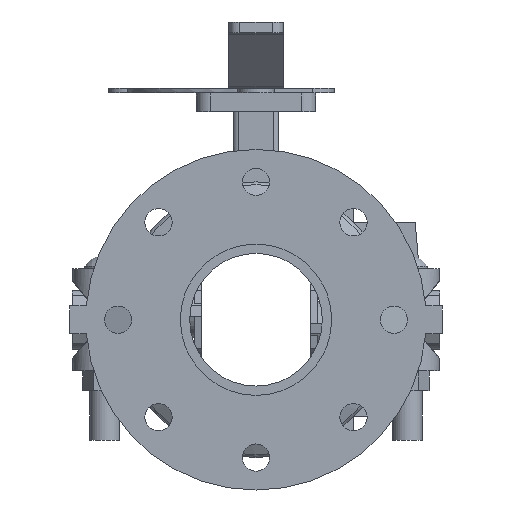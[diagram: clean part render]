
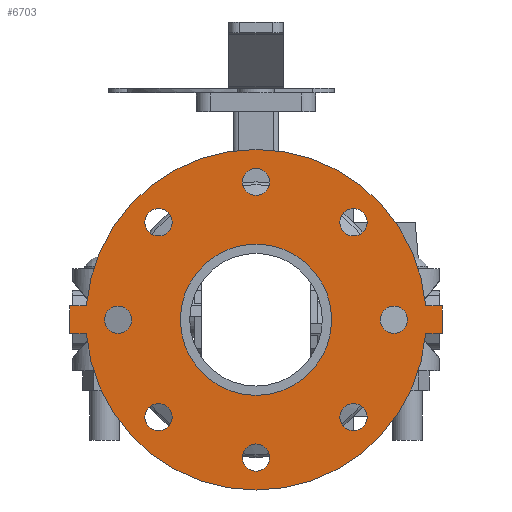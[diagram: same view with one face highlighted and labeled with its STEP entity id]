
A CAD part, front view. The second image highlights one B-rep face of the part: STEP entity #6703.
In plain terms, the highlighted planar face has unit normal (0, -1, 0) as drawn and (0, 0, -1) by its records, which use the part's own axes.
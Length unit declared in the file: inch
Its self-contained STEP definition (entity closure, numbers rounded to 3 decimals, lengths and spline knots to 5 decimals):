
#159=FACE_BOUND('',#829,.T.);
#160=FACE_BOUND('',#830,.T.);
#161=FACE_BOUND('',#831,.T.);
#162=FACE_BOUND('',#832,.T.);
#163=FACE_BOUND('',#833,.T.);
#164=FACE_BOUND('',#834,.T.);
#165=FACE_BOUND('',#835,.T.);
#166=FACE_BOUND('',#836,.T.);
#167=FACE_BOUND('',#837,.T.);
#243=PLANE('',#7266);
#459=FACE_OUTER_BOUND('',#828,.T.);
#828=EDGE_LOOP('',(#4351,#4352,#4353,#4354,#4355,#4356,#4357,#4358));
#829=EDGE_LOOP('',(#4359));
#830=EDGE_LOOP('',(#4360));
#831=EDGE_LOOP('',(#4361));
#832=EDGE_LOOP('',(#4362));
#833=EDGE_LOOP('',(#4363));
#834=EDGE_LOOP('',(#4364));
#835=EDGE_LOOP('',(#4365));
#836=EDGE_LOOP('',(#4366));
#837=EDGE_LOOP('',(#4367));
#1260=LINE('',#10175,#1774);
#1263=LINE('',#10181,#1777);
#1266=LINE('',#10186,#1780);
#1268=LINE('',#10191,#1782);
#1272=LINE('',#10198,#1786);
#1274=LINE('',#10201,#1788);
#1774=VECTOR('',#8096,0.3937);
#1777=VECTOR('',#8101,0.3937);
#1780=VECTOR('',#8106,0.3937);
#1782=VECTOR('',#8110,0.3937);
#1786=VECTOR('',#8116,0.3937);
#1788=VECTOR('',#8120,0.3937);
#2276=CIRCLE('',#7228,0.315);
#2278=CIRCLE('',#7231,0.315);
#2280=CIRCLE('',#7234,0.315);
#2282=CIRCLE('',#7237,0.315);
#2284=CIRCLE('',#7240,0.315);
#2286=CIRCLE('',#7243,0.315);
#2288=CIRCLE('',#7246,0.315);
#2290=CIRCLE('',#7249,0.315);
#2291=CIRCLE('',#7251,1.75);
#2293=CIRCLE('',#7254,3.94);
#2296=CIRCLE('',#7258,3.94);
#2665=VERTEX_POINT('',#10104);
#2667=VERTEX_POINT('',#10110);
#2669=VERTEX_POINT('',#10116);
#2671=VERTEX_POINT('',#10122);
#2673=VERTEX_POINT('',#10128);
#2675=VERTEX_POINT('',#10134);
#2677=VERTEX_POINT('',#10140);
#2679=VERTEX_POINT('',#10146);
#2680=VERTEX_POINT('',#10150);
#2682=VERTEX_POINT('',#10156);
#2684=VERTEX_POINT('',#10159);
#2686=VERTEX_POINT('',#10165);
#2689=VERTEX_POINT('',#10170);
#2690=VERTEX_POINT('',#10174);
#2692=VERTEX_POINT('',#10180);
#2694=VERTEX_POINT('',#10189);
#2695=VERTEX_POINT('',#10190);
#3309=EDGE_CURVE('',#2665,#2665,#2276,.T.);
#3312=EDGE_CURVE('',#2667,#2667,#2278,.T.);
#3315=EDGE_CURVE('',#2669,#2669,#2280,.T.);
#3318=EDGE_CURVE('',#2671,#2671,#2282,.T.);
#3321=EDGE_CURVE('',#2673,#2673,#2284,.T.);
#3324=EDGE_CURVE('',#2675,#2675,#2286,.T.);
#3327=EDGE_CURVE('',#2677,#2677,#2288,.T.);
#3330=EDGE_CURVE('',#2679,#2679,#2290,.T.);
#3331=EDGE_CURVE('',#2680,#2680,#2291,.T.);
#3335=EDGE_CURVE('',#2682,#2684,#2293,.T.);
#3341=EDGE_CURVE('',#2689,#2686,#2296,.T.);
#3342=EDGE_CURVE('',#2684,#2690,#1260,.T.);
#3345=EDGE_CURVE('',#2692,#2689,#1263,.T.);
#3348=EDGE_CURVE('',#2690,#2692,#1266,.T.);
#3350=EDGE_CURVE('',#2694,#2695,#1268,.T.);
#3354=EDGE_CURVE('',#2686,#2694,#1272,.T.);
#3356=EDGE_CURVE('',#2695,#2682,#1274,.T.);
#4351=ORIENTED_EDGE('',*,*,#3356,.F.);
#4352=ORIENTED_EDGE('',*,*,#3350,.F.);
#4353=ORIENTED_EDGE('',*,*,#3354,.F.);
#4354=ORIENTED_EDGE('',*,*,#3341,.F.);
#4355=ORIENTED_EDGE('',*,*,#3345,.F.);
#4356=ORIENTED_EDGE('',*,*,#3348,.F.);
#4357=ORIENTED_EDGE('',*,*,#3342,.F.);
#4358=ORIENTED_EDGE('',*,*,#3335,.F.);
#4359=ORIENTED_EDGE('',*,*,#3309,.T.);
#4360=ORIENTED_EDGE('',*,*,#3312,.T.);
#4361=ORIENTED_EDGE('',*,*,#3315,.T.);
#4362=ORIENTED_EDGE('',*,*,#3318,.T.);
#4363=ORIENTED_EDGE('',*,*,#3321,.T.);
#4364=ORIENTED_EDGE('',*,*,#3324,.T.);
#4365=ORIENTED_EDGE('',*,*,#3327,.T.);
#4366=ORIENTED_EDGE('',*,*,#3330,.T.);
#4367=ORIENTED_EDGE('',*,*,#3331,.T.);
#6703=ADVANCED_FACE('',(#459,#159,#160,#161,#162,#163,#164,#165,#166,#167),
#243,.F.);
#7228=AXIS2_PLACEMENT_3D('',#10106,#8020,#8021);
#7231=AXIS2_PLACEMENT_3D('',#10112,#8027,#8028);
#7234=AXIS2_PLACEMENT_3D('',#10118,#8034,#8035);
#7237=AXIS2_PLACEMENT_3D('',#10124,#8041,#8042);
#7240=AXIS2_PLACEMENT_3D('',#10130,#8048,#8049);
#7243=AXIS2_PLACEMENT_3D('',#10136,#8055,#8056);
#7246=AXIS2_PLACEMENT_3D('',#10142,#8062,#8063);
#7249=AXIS2_PLACEMENT_3D('',#10148,#8069,#8070);
#7251=AXIS2_PLACEMENT_3D('',#10151,#8073,#8074);
#7254=AXIS2_PLACEMENT_3D('',#10160,#8081,#8082);
#7258=AXIS2_PLACEMENT_3D('',#10172,#8092,#8093);
#7266=AXIS2_PLACEMENT_3D('',#10204,#8124,#8125);
#8020=DIRECTION('center_axis',(0.,0.,1.));
#8021=DIRECTION('ref_axis',(-0.707,-0.707,0.));
#8027=DIRECTION('center_axis',(0.,0.,1.));
#8028=DIRECTION('ref_axis',(-1.,0.,0.));
#8034=DIRECTION('center_axis',(0.,0.,1.));
#8035=DIRECTION('ref_axis',(-0.707,0.707,0.));
#8041=DIRECTION('center_axis',(0.,0.,1.));
#8042=DIRECTION('ref_axis',(0.,1.,0.));
#8048=DIRECTION('center_axis',(0.,0.,1.));
#8049=DIRECTION('ref_axis',(0.707,0.707,0.));
#8055=DIRECTION('center_axis',(0.,0.,1.));
#8056=DIRECTION('ref_axis',(1.,0.,0.));
#8062=DIRECTION('center_axis',(0.,0.,1.));
#8063=DIRECTION('ref_axis',(0.707,-0.707,0.));
#8069=DIRECTION('center_axis',(0.,0.,1.));
#8070=DIRECTION('ref_axis',(0.,-1.,0.));
#8073=DIRECTION('center_axis',(0.,0.,1.));
#8074=DIRECTION('ref_axis',(0.,-1.,0.));
#8081=DIRECTION('center_axis',(0.,0.,1.));
#8082=DIRECTION('ref_axis',(0.,1.,0.));
#8092=DIRECTION('center_axis',(0.,0.,1.));
#8093=DIRECTION('ref_axis',(0.,1.,0.));
#8096=DIRECTION('',(0.,-1.,0.));
#8101=DIRECTION('',(0.,1.,0.));
#8106=DIRECTION('',(1.,0.,0.));
#8110=DIRECTION('',(-1.,0.,0.));
#8116=DIRECTION('',(0.,1.,0.));
#8120=DIRECTION('',(0.,-1.,0.));
#8124=DIRECTION('center_axis',(0.,0.,1.));
#8125=DIRECTION('ref_axis',(0.,1.,0.));
#10104=CARTESIAN_POINT('',(-2.03293,2.47841,0.));
#10106=CARTESIAN_POINT('Origin',(-2.25567,2.25567,0.));
#10110=CARTESIAN_POINT('',(0.315,3.19,0.));
#10112=CARTESIAN_POINT('Origin',(0.,3.19,0.));
#10116=CARTESIAN_POINT('',(2.47841,2.03293,0.));
#10118=CARTESIAN_POINT('Origin',(2.25567,2.25567,0.));
#10122=CARTESIAN_POINT('',(3.19,-0.315,0.));
#10124=CARTESIAN_POINT('Origin',(3.19,0.,0.));
#10128=CARTESIAN_POINT('',(2.03293,-2.47841,0.));
#10130=CARTESIAN_POINT('Origin',(2.25567,-2.25567,0.));
#10134=CARTESIAN_POINT('',(-0.315,-3.19,0.));
#10136=CARTESIAN_POINT('Origin',(0.,-3.19,0.));
#10140=CARTESIAN_POINT('',(-2.47841,-2.03293,0.));
#10142=CARTESIAN_POINT('Origin',(-2.25567,-2.25567,0.));
#10146=CARTESIAN_POINT('',(-3.19,0.315,0.));
#10148=CARTESIAN_POINT('Origin',(-3.19,0.,0.));
#10150=CARTESIAN_POINT('',(0.,1.75,0.));
#10151=CARTESIAN_POINT('Origin',(0.,0.,0.));
#10156=CARTESIAN_POINT('',(-0.32,3.92698,0.));
#10159=CARTESIAN_POINT('',(-0.32,-3.92698,0.));
#10160=CARTESIAN_POINT('Origin',(0.,0.,0.));
#10165=CARTESIAN_POINT('',(0.32,3.92698,0.));
#10170=CARTESIAN_POINT('',(0.32,-3.92698,0.));
#10172=CARTESIAN_POINT('Origin',(0.,0.,0.));
#10174=CARTESIAN_POINT('',(-0.32,-4.315,0.));
#10175=CARTESIAN_POINT('',(-0.32,-3.92698,0.));
#10180=CARTESIAN_POINT('',(0.32,-4.315,0.));
#10181=CARTESIAN_POINT('',(0.32,-4.315,0.));
#10186=CARTESIAN_POINT('',(-0.32,-4.315,0.));
#10189=CARTESIAN_POINT('',(0.32,4.315,0.));
#10190=CARTESIAN_POINT('',(-0.32,4.315,0.));
#10191=CARTESIAN_POINT('',(0.32,4.315,0.));
#10198=CARTESIAN_POINT('',(0.32,3.92698,0.));
#10201=CARTESIAN_POINT('',(-0.32,4.315,0.));
#10204=CARTESIAN_POINT('Origin',(0.,4.1395,
0.));
